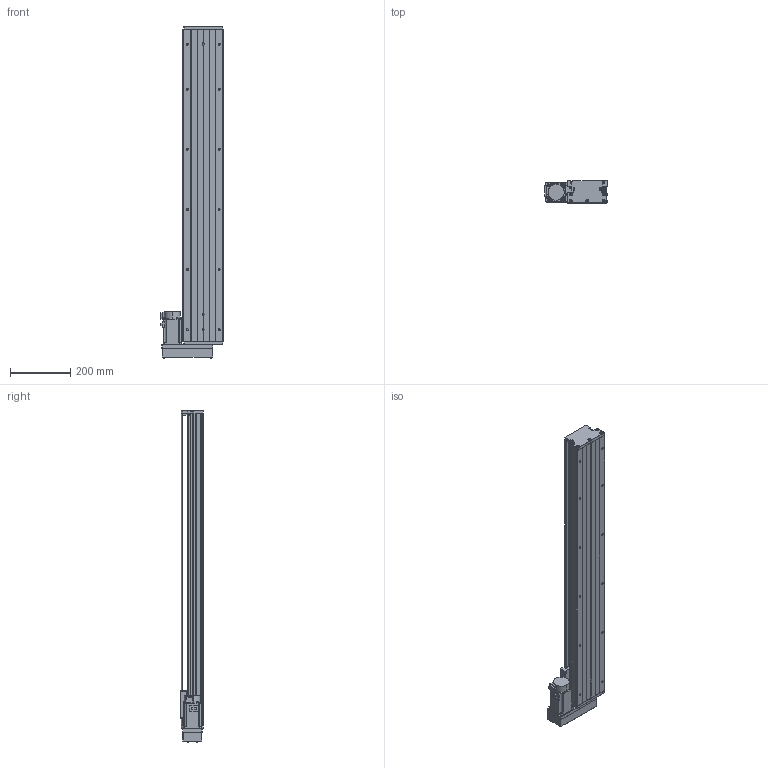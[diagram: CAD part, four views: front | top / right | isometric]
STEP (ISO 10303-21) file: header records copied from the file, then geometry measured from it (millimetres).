
FILE_DESCRIPTION (( 'STEP AP203' ), '1' );
FILE_NAME ('KTH130-900-BL-M40-C4.step', '2023-06-30T04:00:21', ( '微软用户' ), ( '微软中国' ), 'SwSTEP 2.0', 'SolidWorks 2020', '' );
FILE_SCHEMA (( 'CONFIG_CONTROL_DESIGN' ));
Length unit declared in the file: millimetre
Products named in the file (19): CTHA60-017; HG-KN43J-S100; KTH130-002_KTH130-002; EE_SX911P_R; GBT 70.2-M4¡Á35_M4¡Á35; KTH130-004; CTHA60-016; GTH14-015-2_CTHA86-015-2; KTH130-005; GBT 70.1-M3℅5; GTH14-033; GB1155-6X6; GBT77-2000 M3×3; KTH130-900-BL-M40-C4; GBT70.1 M5℅16; す晦芛蹟隊 M3℅5; GBT 70.2-M3¡Á5_M3¡Á6; GBT 70.3-M3℅8; GTH14-001_900
Assembly tree (53 placements, depth 2):
  KTH130-900-BL-M40-C4
    GTH14-001_900
    KTH130-002_KTH130-002
    KTH130-004
    KTH130-005
    GB1155-6X6  x2
    GBT70.1 M5℅16  x10
    GBT 70.2-M3¡Á5_M3¡Á6  x4
    CTHA60-017  x3
    EE_SX911P_R  x3
    CTHA60-016  x2
    GBT 70.1-M3℅5  x6
    GBT77-2000 M3×3  x6
    す晦芛蹟隊 M3℅5  x2
    GBT 70.3-M3℅8  x4
    HG-KN43J-S100
    GBT 70.2-M4¡Á35_M4¡Á35  x4
    GTH14-015-2_CTHA86-015-2
    GTH14-033
Bounding box: 209.3 x 78 x 1104.2 mm (x, y, z)
Volume: 6177273.4 mm3; surface area: 983451.4 mm2
Topology: 56 solids, 56 shells, 2233 faces, 5390 edges, 3358 vertices
Faces by surface type: plane 1199, cylinder 620, cone 290, torus 100, sphere 24
Entity records: 40866 total; most frequent: CARTESIAN_POINT 8684, DIRECTION 6099, ORIENTED_EDGE 5980, EDGE_CURVE 2990, AXIS2_PLACEMENT_3D 2104, VERTEX_POINT 1911, VECTOR 1891, LINE 1891
